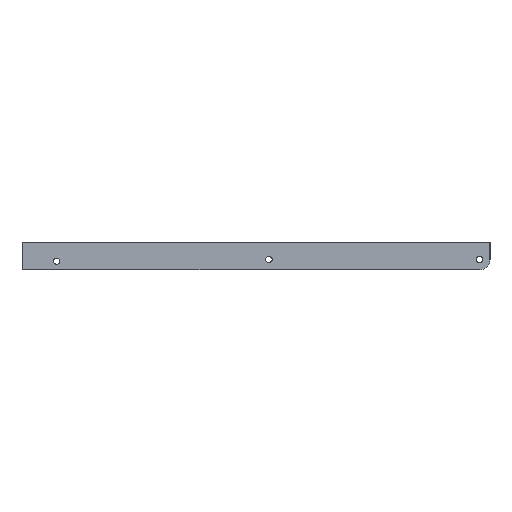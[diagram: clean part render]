
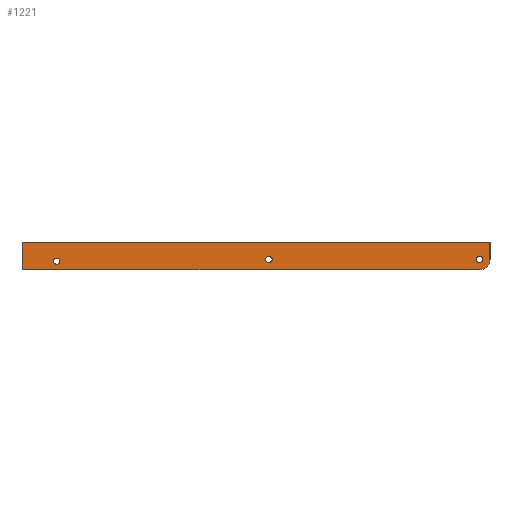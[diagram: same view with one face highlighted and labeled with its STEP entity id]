
A CAD part, left-side view. The second image highlights one B-rep face of the part: STEP entity #1221.
In plain terms, the highlighted planar face has unit normal (-1, 0, 0).
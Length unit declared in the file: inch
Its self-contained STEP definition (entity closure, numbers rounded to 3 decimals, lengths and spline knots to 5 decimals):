
#43=FACE_BOUND('',#271,.T.);
#44=FACE_BOUND('',#272,.T.);
#45=FACE_BOUND('',#273,.T.);
#81=CIRCLE('',#1316,0.075);
#90=CIRCLE('',#1341,0.075);
#91=CIRCLE('',#1343,0.075);
#92=CIRCLE('',#1346,0.25);
#93=CIRCLE('',#1348,0.04);
#133=PLANE('',#1351);
#197=FACE_OUTER_BOUND('',#270,.T.);
#270=EDGE_LOOP('',(#1125,#1126,#1127,#1128,#1129,#1130));
#271=EDGE_LOOP('',(#1131));
#272=EDGE_LOOP('',(#1132));
#273=EDGE_LOOP('',(#1133));
#338=LINE('',#1947,#456);
#385=LINE('',#2086,#503);
#389=LINE('',#2097,#507);
#391=LINE('',#2100,#509);
#456=VECTOR('',#1544,0.3937);
#503=VECTOR('',#1685,0.3937);
#507=VECTOR('',#1699,0.3937);
#509=VECTOR('',#1703,0.3937);
#575=VERTEX_POINT('',#1944);
#576=VERTEX_POINT('',#1946);
#594=VERTEX_POINT('',#1996);
#618=VERTEX_POINT('',#2076);
#619=VERTEX_POINT('',#2080);
#620=VERTEX_POINT('',#2084);
#621=VERTEX_POINT('',#2085);
#622=VERTEX_POINT('',#2092);
#623=VERTEX_POINT('',#2096);
#716=EDGE_CURVE('',#575,#576,#338,.T.);
#742=EDGE_CURVE('',#594,#594,#81,.T.);
#782=EDGE_CURVE('',#618,#618,#90,.T.);
#784=EDGE_CURVE('',#619,#619,#91,.T.);
#785=EDGE_CURVE('',#620,#621,#385,.T.);
#788=EDGE_CURVE('',#575,#620,#92,.T.);
#789=EDGE_CURVE('',#622,#576,#93,.T.);
#791=EDGE_CURVE('',#622,#623,#389,.T.);
#793=EDGE_CURVE('',#623,#621,#391,.T.);
#1125=ORIENTED_EDGE('',*,*,#793,.F.);
#1126=ORIENTED_EDGE('',*,*,#791,.F.);
#1127=ORIENTED_EDGE('',*,*,#789,.T.);
#1128=ORIENTED_EDGE('',*,*,#716,.F.);
#1129=ORIENTED_EDGE('',*,*,#788,.T.);
#1130=ORIENTED_EDGE('',*,*,#785,.T.);
#1131=ORIENTED_EDGE('',*,*,#742,.T.);
#1132=ORIENTED_EDGE('',*,*,#784,.T.);
#1133=ORIENTED_EDGE('',*,*,#782,.T.);
#1221=ADVANCED_FACE('',(#197,#43,#44,#45),#133,.T.);
#1316=AXIS2_PLACEMENT_3D('',#1998,#1595,#1596);
#1341=AXIS2_PLACEMENT_3D('',#2078,#1676,#1677);
#1343=AXIS2_PLACEMENT_3D('',#2082,#1681,#1682);
#1346=AXIS2_PLACEMENT_3D('',#2090,#1690,#1691);
#1348=AXIS2_PLACEMENT_3D('',#2093,#1694,#1695);
#1351=AXIS2_PLACEMENT_3D('',#2101,#1704,#1705);
#1544=DIRECTION('',(0.,1.,0.));
#1595=DIRECTION('center_axis',(1.,0.,0.));
#1596=DIRECTION('ref_axis',(0.,-1.,0.));
#1676=DIRECTION('center_axis',(1.,0.,0.));
#1677=DIRECTION('ref_axis',(0.,-1.,0.));
#1681=DIRECTION('center_axis',(1.,0.,0.));
#1682=DIRECTION('ref_axis',(0.,-1.,0.));
#1685=DIRECTION('',(0.,0.,1.));
#1690=DIRECTION('center_axis',(-1.,0.,0.));
#1691=DIRECTION('ref_axis',(0.,0.,-1.));
#1694=DIRECTION('center_axis',(-1.,0.,0.));
#1695=DIRECTION('ref_axis',(0.,0.5,0.866));
#1699=DIRECTION('',(0.,0.,1.));
#1703=DIRECTION('',(0.,-1.,0.));
#1704=DIRECTION('center_axis',(-1.,0.,0.));
#1705=DIRECTION('ref_axis',(0.,-1.,0.));
#1944=CARTESIAN_POINT('',(-7.522,5.21,-1.146));
#1946=CARTESIAN_POINT('',(-7.522,16.07745,-1.146));
#1947=CARTESIAN_POINT('',(-7.522,15.25,-1.146));
#1996=CARTESIAN_POINT('',(-7.522,10.305,-0.896));
#1998=CARTESIAN_POINT('Origin',(-7.522,10.23,-0.896));
#2076=CARTESIAN_POINT('',(-7.522,5.285,-0.896));
#2078=CARTESIAN_POINT('Origin',(-7.522,5.21,-0.896));
#2080=CARTESIAN_POINT('',(-7.522,15.36743,-0.93843));
#2082=CARTESIAN_POINT('Origin',(-7.522,15.29243,-0.93843));
#2084=CARTESIAN_POINT('',(-7.522,4.96,-0.896));
#2085=CARTESIAN_POINT('',(-7.522,4.96,-0.48));
#2086=CARTESIAN_POINT('',(-7.522,4.96,-0.896));
#2090=CARTESIAN_POINT('Origin',(-7.522,5.21,-0.896));
#2092=CARTESIAN_POINT('',(-7.522,16.11745,-1.106));
#2093=CARTESIAN_POINT('Origin',(-7.522,16.07745,-1.106));
#2096=CARTESIAN_POINT('',(-7.522,16.11745,-0.48));
#2097=CARTESIAN_POINT('',(-7.522,16.11745,-1.106));
#2100=CARTESIAN_POINT('',(-7.522,15.5,-0.48));
#2101=CARTESIAN_POINT('Origin',(-7.522,10.53872,-0.813));
